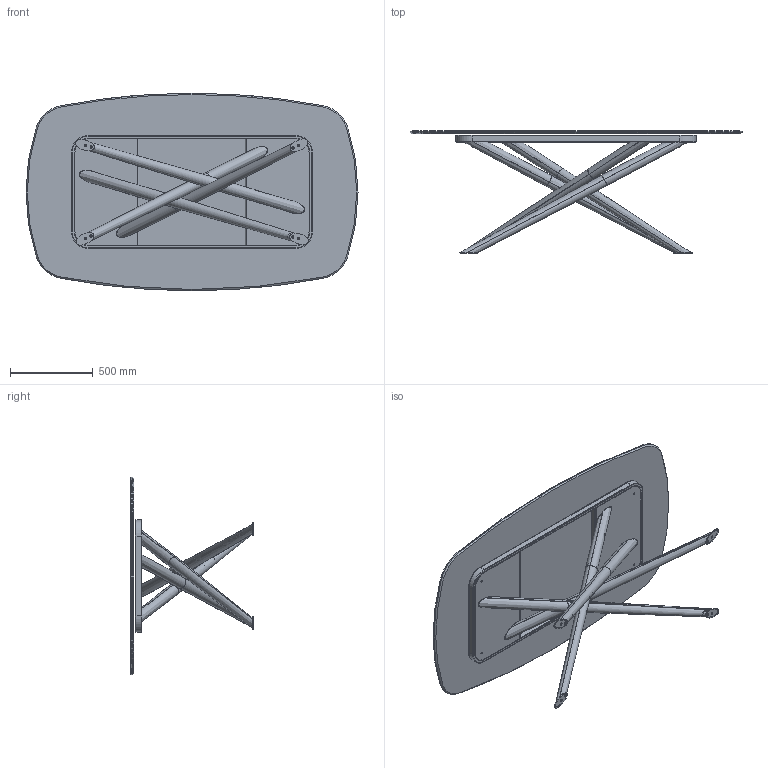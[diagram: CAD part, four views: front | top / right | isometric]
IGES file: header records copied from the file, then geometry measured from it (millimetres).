
Start section: SolidWorks IGES file using analytic representation for surfaces
Global section: file name: Y:\eforma\TECNICO\SOLIDWORKS\E-FORMA\1-TAVOLI\BALY\02 parts\BA40C.IGS; native system: SolidWorks 2022; preprocessor: SolidWorks 2022; author: eforma.tech; date: 240808.082211; units: millimetre
Bounding box: 2000 x 735 x 1190 mm (x, y, z)
Volume: 40016212.3 mm3; surface area: 12890193.1 mm2
Topology: 28 solids, 28 shells, 633 faces, 1309 edges, 726 vertices
Faces by surface type: revolution 327, plane 288, bspline 18
